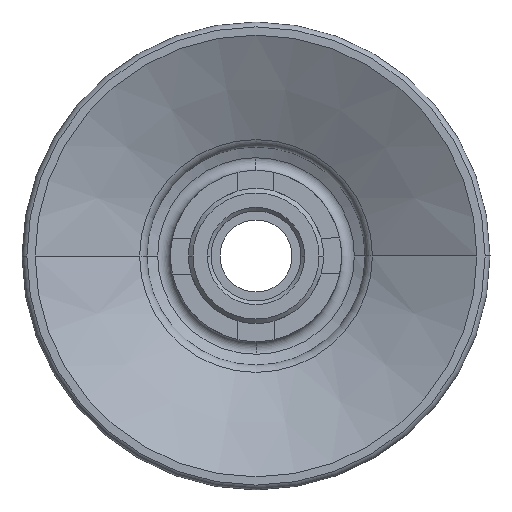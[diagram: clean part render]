
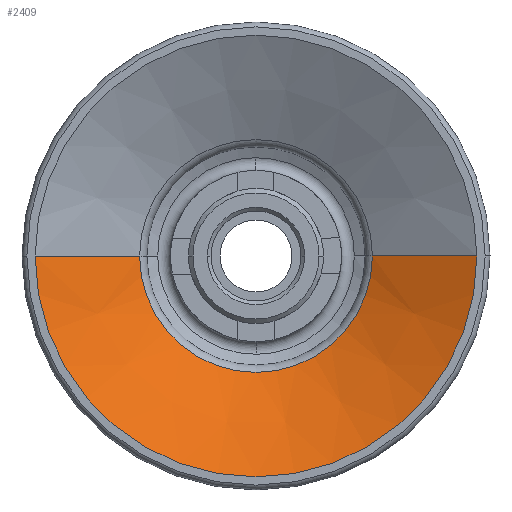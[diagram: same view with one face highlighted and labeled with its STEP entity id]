
A CAD part, front view. The second image highlights one B-rep face of the part: STEP entity #2409.
In plain terms, the highlighted conical face has half-angle 62.925 degrees and reference radius 6.466 mm.
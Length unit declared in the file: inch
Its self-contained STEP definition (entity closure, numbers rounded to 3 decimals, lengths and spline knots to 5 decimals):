
#286 = EDGE_CURVE ( 'NONE', #2599, #2498, #1688, .T. ) ;
#303 = CARTESIAN_POINT ( 'NONE',  ( 0.48308, 0., -0.53219 ) ) ;
#318 = DIRECTION ( 'NONE',  ( 1., 0., 0. ) ) ;
#319 = AXIS2_PLACEMENT_3D ( 'NONE', #1351, #998, #3914 ) ;
#338 = VERTEX_POINT ( 'NONE', #1408 ) ;
#481 = ORIENTED_EDGE ( 'NONE', *, *, #2752, .F. ) ;
#555 = EDGE_CURVE ( 'NONE', #338, #2430, #4103, .T. ) ;
#637 = FACE_OUTER_BOUND ( 'NONE', #1380, .T. ) ;
#683 = EDGE_CURVE ( 'NONE', #2498, #2430, #701, .T. ) ;
#701 = CIRCLE ( 'NONE', #3198, 0.48308 ) ;
#945 = DIRECTION ( 'NONE',  ( 0., 0., -1. ) ) ;
#959 = AXIS2_PLACEMENT_3D ( 'NONE', #2848, #945, #2152 ) ;
#998 = DIRECTION ( 'NONE',  ( 0., 0., -1. ) ) ;
#1096 = CONICAL_SURFACE ( 'NONE', #959, 0.25458, 1.098 ) ;
#1099 = VECTOR ( 'NONE', #2813, 39.37008 ) ;
#1351 = CARTESIAN_POINT ( 'NONE',  ( 0., 0., -0.41539 ) ) ;
#1380 = EDGE_LOOP ( 'NONE', ( #481, #3916, #3115, #4001 ) ) ;
#1408 = CARTESIAN_POINT ( 'NONE',  ( 0.25458, 0., -0.41539 ) ) ;
#1688 = LINE ( 'NONE', #3569, #2792 ) ;
#1955 = DIRECTION ( 'NONE',  ( 0., 0., 1. ) ) ;
#2033 = CARTESIAN_POINT ( 'NONE',  ( -0.25458, 0., -0.41539 ) ) ;
#2152 = DIRECTION ( 'NONE',  ( -1., 0., 0. ) ) ;
#2282 = CIRCLE ( 'NONE', #319, 0.25458 ) ;
#2354 = CARTESIAN_POINT ( 'NONE',  ( -0.48308, 0., -0.53219 ) ) ;
#2409 = ADVANCED_FACE ( 'NONE', ( #637 ), #1096, .F. ) ;
#2430 = VERTEX_POINT ( 'NONE', #303 ) ;
#2498 = VERTEX_POINT ( 'NONE', #2354 ) ;
#2599 = VERTEX_POINT ( 'NONE', #2033 ) ;
#2752 = EDGE_CURVE ( 'NONE', #338, #2599, #2282, .T. ) ;
#2792 = VECTOR ( 'NONE', #3298, 39.37008 ) ;
#2813 = DIRECTION ( 'NONE',  ( 0.89, 0., -0.455 ) ) ;
#2848 = CARTESIAN_POINT ( 'NONE',  ( 0., 0., -0.41539 ) ) ;
#3115 = ORIENTED_EDGE ( 'NONE', *, *, #683, .F. ) ;
#3198 = AXIS2_PLACEMENT_3D ( 'NONE', #3617, #1955, #318 ) ;
#3298 = DIRECTION ( 'NONE',  ( -0.89, 0., -0.455 ) ) ;
#3569 = CARTESIAN_POINT ( 'NONE',  ( -0.25458, 0., -0.41539 ) ) ;
#3617 = CARTESIAN_POINT ( 'NONE',  ( 0., 0., -0.53219 ) ) ;
#3779 = CARTESIAN_POINT ( 'NONE',  ( 0.25458, 0., -0.41539 ) ) ;
#3914 = DIRECTION ( 'NONE',  ( 1., 0., 0. ) ) ;
#3916 = ORIENTED_EDGE ( 'NONE', *, *, #555, .T. ) ;
#4001 = ORIENTED_EDGE ( 'NONE', *, *, #286, .F. ) ;
#4103 = LINE ( 'NONE', #3779, #1099 ) ;
